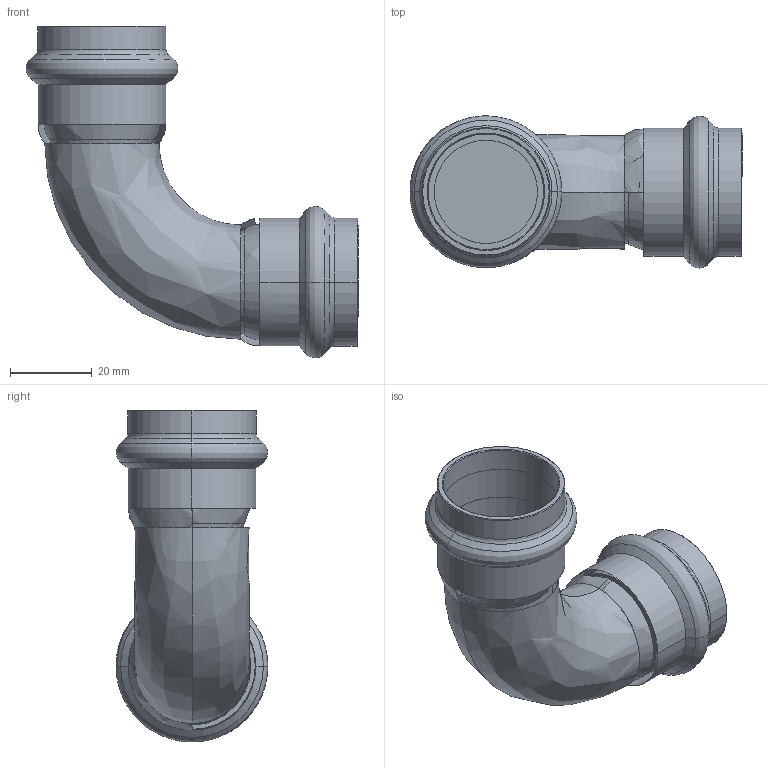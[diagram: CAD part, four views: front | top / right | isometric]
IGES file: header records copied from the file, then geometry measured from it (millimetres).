
Start section: Elysium IGES Interface
Global section: file name: C:\3d modellen sudo\C-Pr VP\SP8002V\8002VW28.igs; native system: CoCreate Modeling 17.00A  17-Jun-2010; preprocessor: CoCreate IGES_3D V2.2; author: Unknown; organization: Unknown; date: 20130129.134531; units: millimetre
Bounding box: 81.34 x 37.2 x 81.33 mm (x, y, z)
Volume: 41280.1 mm3; surface area: 24909.3 mm2
Topology: 1 solids, 2 shells, 76 faces, 160 edges, 91 vertices
Faces by surface type: bspline 76
